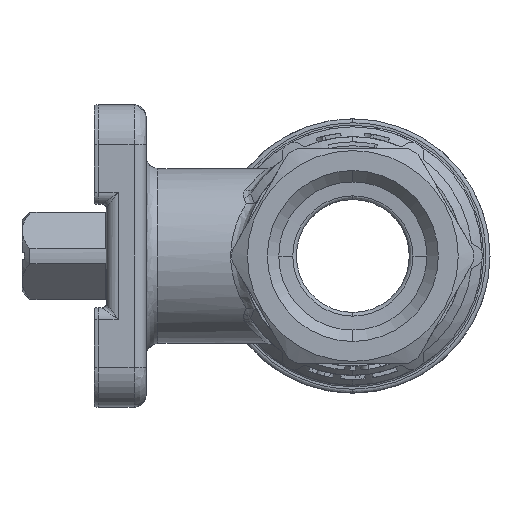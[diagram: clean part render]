
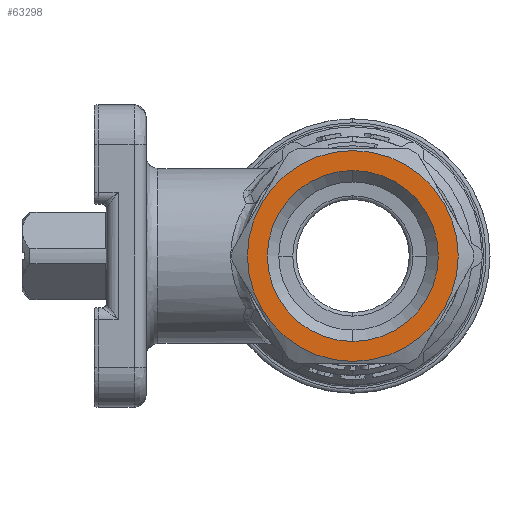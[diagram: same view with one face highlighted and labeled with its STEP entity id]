
A CAD part, left-side view. The second image highlights one B-rep face of the part: STEP entity #63298.
In plain terms, the highlighted planar face has unit normal (-1, 0, 0).
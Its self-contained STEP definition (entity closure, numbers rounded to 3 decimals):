
#7475 = VERTEX_POINT ( 'NONE', #40673 ) ;
#7477 = EDGE_CURVE ( 'NONE', #7485, #7529, #40668, .T. ) ;
#7485 = VERTEX_POINT ( 'NONE', #40621 ) ;
#7491 = EDGE_CURVE ( 'NONE', #7493, #7475, #40746, .T. ) ;
#7493 = VERTEX_POINT ( 'NONE', #40736 ) ;
#7529 = VERTEX_POINT ( 'NONE', #40898 ) ;
#40621 = CARTESIAN_POINT ( 'NONE',  ( -33.5, 0., -10.75 ) ) ;
#40664 = DIRECTION ( 'NONE',  ( 0., 0., 1. ) ) ;
#40665 = DIRECTION ( 'NONE',  ( -1., 0., 0. ) ) ;
#40666 = CARTESIAN_POINT ( 'NONE',  ( -33.5, 0., 0. ) ) ;
#40667 = AXIS2_PLACEMENT_3D ( 'NONE', #40666, #40665, #40664 ) ;
#40668 = CIRCLE ( 'NONE', #40667, 10.75 ) ;
#40673 = CARTESIAN_POINT ( 'NONE',  ( -33.5, 0., 13.25 ) ) ;
#40736 = CARTESIAN_POINT ( 'NONE',  ( -33.5, 0., -13.25 ) ) ;
#40738 = DIRECTION ( 'NONE',  ( 0., 0., -1. ) ) ;
#40740 = DIRECTION ( 'NONE',  ( 1., 0., 0. ) ) ;
#40742 = CARTESIAN_POINT ( 'NONE',  ( -33.5, 0., 0. ) ) ;
#40744 = AXIS2_PLACEMENT_3D ( 'NONE', #40742, #40740, #40738 ) ;
#40746 = CIRCLE ( 'NONE', #40744, 13.25 ) ;
#40898 = CARTESIAN_POINT ( 'NONE',  ( -33.5, 0., 10.75 ) ) ;
#45547 = FACE_BOUND ( 'NONE', #63296, .T. ) ;
#45567 = DIRECTION ( 'NONE',  ( 0., 0., -1. ) ) ;
#45568 = DIRECTION ( 'NONE',  ( 1., 0., 0. ) ) ;
#45569 = CARTESIAN_POINT ( 'NONE',  ( -33.5, 0., 0. ) ) ;
#45570 = AXIS2_PLACEMENT_3D ( 'NONE', #45569, #45568, #45567 ) ;
#45571 = DIRECTION ( 'NONE',  ( 0., 0., -1. ) ) ;
#45572 = DIRECTION ( 'NONE',  ( 1., 0., 0. ) ) ;
#45573 = AXIS2_PLACEMENT_3D ( 'NONE', #45578, #45572, #45571 ) ;
#45574 = CIRCLE ( 'NONE', #45570, 13.25 ) ;
#45578 = CARTESIAN_POINT ( 'NONE',  ( -33.5, -13.409, 13.409 ) ) ;
#45579 = PLANE ( 'NONE',  #45573 ) ;
#45581 = FACE_OUTER_BOUND ( 'NONE', #63327, .T. ) ;
#45747 = CARTESIAN_POINT ( 'NONE',  ( -33.5, 0., 0. ) ) ;
#45762 = DIRECTION ( 'NONE',  ( 0., 0., 1. ) ) ;
#45764 = DIRECTION ( 'NONE',  ( -1., 0., 0. ) ) ;
#45766 = AXIS2_PLACEMENT_3D ( 'NONE', #45747, #45764, #45762 ) ;
#45768 = CIRCLE ( 'NONE', #45766, 10.75 ) ;
#63295 = ORIENTED_EDGE ( 'NONE', *, *, #63335, .F. ) ;
#63296 = EDGE_LOOP ( 'NONE', ( #63295, #63328 ) ) ;
#63298 = ADVANCED_FACE ( 'NONE', ( #45547, #45581 ), #45579, .F. ) ;
#63299 = EDGE_CURVE ( 'NONE', #7475, #7493, #45574, .T. ) ;
#63327 = EDGE_LOOP ( 'NONE', ( #63331, #63333 ) ) ;
#63328 = ORIENTED_EDGE ( 'NONE', *, *, #7477, .F. ) ;
#63331 = ORIENTED_EDGE ( 'NONE', *, *, #7491, .F. ) ;
#63333 = ORIENTED_EDGE ( 'NONE', *, *, #63299, .F. ) ;
#63335 = EDGE_CURVE ( 'NONE', #7529, #7485, #45768, .T. ) ;
